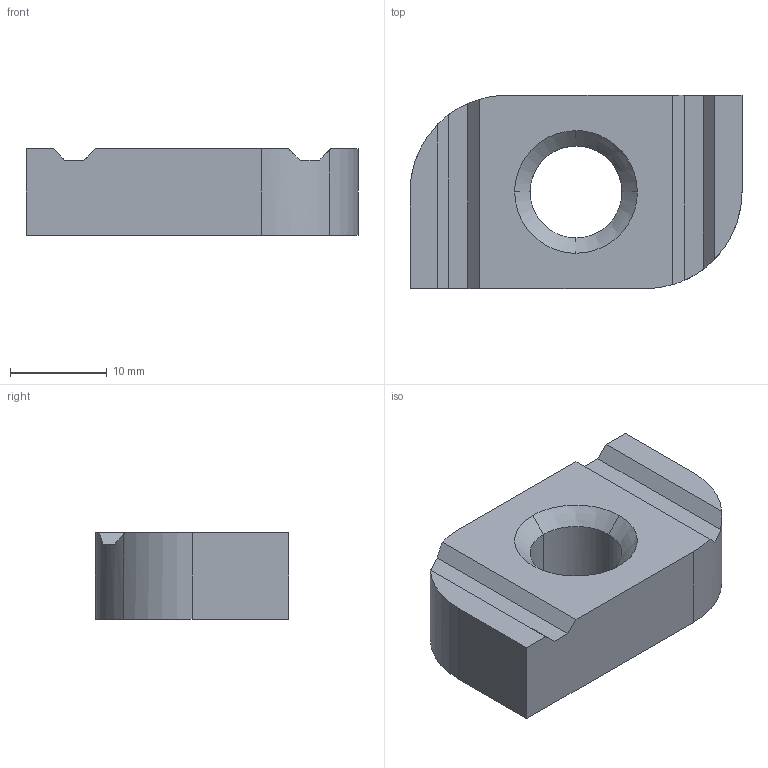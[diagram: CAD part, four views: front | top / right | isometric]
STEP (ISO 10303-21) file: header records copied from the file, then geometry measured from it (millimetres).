
FILE_DESCRIPTION(('TurboCAD Mac Pro'),'Build 980');
FILE_NAME('P3008.stp',' ',(''),(''),'ACIS Interop','IMSI','TurboCAD Mac Pro BY IMSI, INCORPORATED');
FILE_SCHEMA(('automotive_design'));
Length unit declared in the file: inch
Products named in the file (1): 1
Bounding box: 34.4 x 20 x 8.99 mm (x, y, z)
Volume: 4974.2 mm3; surface area: 2313.1 mm2
Topology: 1 solids, 1 shells, 26 faces, 68 edges, 44 vertices
Faces by surface type: plane 14, bspline 8, cylinder 4
Entity records: 1428 total; most frequent: CARTESIAN_POINT 583, ORIENTED_EDGE 136, DIRECTION 110, EDGE_CURVE 68, VERTEX_POINT 44, LINE 40, VECTOR 40, AXIS2_PLACEMENT_3D 35
